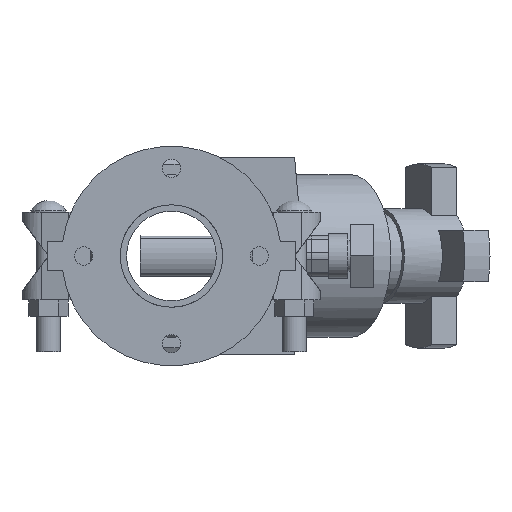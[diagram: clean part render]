
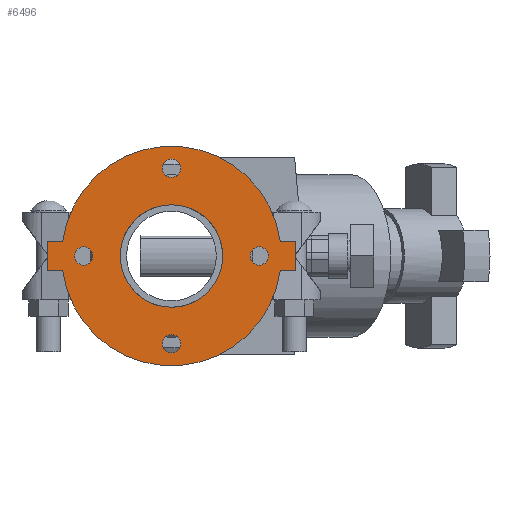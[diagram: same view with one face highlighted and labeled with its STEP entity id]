
A CAD part, front view. The second image highlights one B-rep face of the part: STEP entity #6496.
In plain terms, the highlighted planar face has unit normal (0, -1, 0) as drawn and (0, 0, 1) by its records, which use the part's own axes.
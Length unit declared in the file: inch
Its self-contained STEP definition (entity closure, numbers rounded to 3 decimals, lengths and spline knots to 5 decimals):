
#175=FACE_BOUND('',#821,.T.);
#176=FACE_BOUND('',#822,.T.);
#177=FACE_BOUND('',#823,.T.);
#178=FACE_BOUND('',#824,.T.);
#179=FACE_BOUND('',#825,.T.);
#245=PLANE('',#7065);
#461=FACE_OUTER_BOUND('',#820,.T.);
#820=EDGE_LOOP('',(#4206,#4207,#4208,#4209,#4210,#4211,#4212,#4213));
#821=EDGE_LOOP('',(#4214));
#822=EDGE_LOOP('',(#4215));
#823=EDGE_LOOP('',(#4216));
#824=EDGE_LOOP('',(#4217));
#825=EDGE_LOOP('',(#4218,#4219));
#1239=LINE('',#9908,#1730);
#1240=LINE('',#9911,#1731);
#1243=LINE('',#9916,#1734);
#1244=LINE('',#9919,#1735);
#1246=LINE('',#9922,#1737);
#1247=LINE('',#9924,#1738);
#1730=VECTOR('',#7875,0.3937);
#1731=VECTOR('',#7878,0.3937);
#1734=VECTOR('',#7883,0.3937);
#1735=VECTOR('',#7886,0.3937);
#1737=VECTOR('',#7890,0.3937);
#1738=VECTOR('',#7893,0.3937);
#2205=CIRCLE('',#7036,0.3125);
#2207=CIRCLE('',#7039,0.3125);
#2209=CIRCLE('',#7042,0.3125);
#2211=CIRCLE('',#7045,0.3125);
#2217=CIRCLE('',#7053,3.75);
#2218=CIRCLE('',#7055,1.75);
#2219=CIRCLE('',#7056,1.75);
#2220=CIRCLE('',#7058,3.75);
#2576=VERTEX_POINT('',#9843);
#2578=VERTEX_POINT('',#9849);
#2580=VERTEX_POINT('',#9855);
#2582=VERTEX_POINT('',#9861);
#2594=VERTEX_POINT('',#9888);
#2595=VERTEX_POINT('',#9890);
#2596=VERTEX_POINT('',#9894);
#2597=VERTEX_POINT('',#9896);
#2598=VERTEX_POINT('',#9900);
#2599=VERTEX_POINT('',#9902);
#2600=VERTEX_POINT('',#9906);
#2601=VERTEX_POINT('',#9910);
#2602=VERTEX_POINT('',#9914);
#2603=VERTEX_POINT('',#9918);
#3207=EDGE_CURVE('',#2576,#2576,#2205,.T.);
#3210=EDGE_CURVE('',#2578,#2578,#2207,.T.);
#3213=EDGE_CURVE('',#2580,#2580,#2209,.T.);
#3216=EDGE_CURVE('',#2582,#2582,#2211,.T.);
#3231=EDGE_CURVE('',#2594,#2595,#2217,.T.);
#3233=EDGE_CURVE('',#2597,#2596,#2218,.T.);
#3234=EDGE_CURVE('',#2596,#2597,#2219,.T.);
#3236=EDGE_CURVE('',#2599,#2598,#2220,.T.);
#3239=EDGE_CURVE('',#2595,#2600,#1239,.T.);
#3240=EDGE_CURVE('',#2601,#2599,#1240,.T.);
#3243=EDGE_CURVE('',#2598,#2602,#1243,.T.);
#3244=EDGE_CURVE('',#2603,#2594,#1244,.T.);
#3246=EDGE_CURVE('',#2602,#2603,#1246,.T.);
#3247=EDGE_CURVE('',#2600,#2601,#1247,.T.);
#4206=ORIENTED_EDGE('',*,*,#3243,.T.);
#4207=ORIENTED_EDGE('',*,*,#3246,.T.);
#4208=ORIENTED_EDGE('',*,*,#3244,.T.);
#4209=ORIENTED_EDGE('',*,*,#3231,.T.);
#4210=ORIENTED_EDGE('',*,*,#3239,.T.);
#4211=ORIENTED_EDGE('',*,*,#3247,.T.);
#4212=ORIENTED_EDGE('',*,*,#3240,.T.);
#4213=ORIENTED_EDGE('',*,*,#3236,.T.);
#4214=ORIENTED_EDGE('',*,*,#3207,.T.);
#4215=ORIENTED_EDGE('',*,*,#3210,.T.);
#4216=ORIENTED_EDGE('',*,*,#3213,.T.);
#4217=ORIENTED_EDGE('',*,*,#3216,.T.);
#4218=ORIENTED_EDGE('',*,*,#3233,.T.);
#4219=ORIENTED_EDGE('',*,*,#3234,.T.);
#6496=ADVANCED_FACE('',(#461,#175,#176,#177,#178,#179),#245,.T.);
#7036=AXIS2_PLACEMENT_3D('',#9844,#7811,#7812);
#7039=AXIS2_PLACEMENT_3D('',#9850,#7818,#7819);
#7042=AXIS2_PLACEMENT_3D('',#9856,#7825,#7826);
#7045=AXIS2_PLACEMENT_3D('',#9862,#7832,#7833);
#7053=AXIS2_PLACEMENT_3D('',#9892,#7857,#7858);
#7055=AXIS2_PLACEMENT_3D('',#9897,#7862,#7863);
#7056=AXIS2_PLACEMENT_3D('',#9898,#7864,#7865);
#7058=AXIS2_PLACEMENT_3D('',#9903,#7869,#7870);
#7065=AXIS2_PLACEMENT_3D('',#9925,#7894,#7895);
#7811=DIRECTION('center_axis',(0.,0.,-1.));
#7812=DIRECTION('ref_axis',(0.,1.,0.));
#7818=DIRECTION('center_axis',(0.,0.,-1.));
#7819=DIRECTION('ref_axis',(1.,0.,0.));
#7825=DIRECTION('center_axis',(0.,0.,-1.));
#7826=DIRECTION('ref_axis',(0.,-1.,0.));
#7832=DIRECTION('center_axis',(0.,0.,-1.));
#7833=DIRECTION('ref_axis',(-1.,0.,0.));
#7857=DIRECTION('center_axis',(0.,0.,1.));
#7858=DIRECTION('ref_axis',(-1.,0.,0.));
#7862=DIRECTION('center_axis',(0.,0.,-1.));
#7863=DIRECTION('ref_axis',(-1.,0.,0.));
#7864=DIRECTION('center_axis',(0.,0.,-1.));
#7865=DIRECTION('ref_axis',(-1.,0.,0.));
#7869=DIRECTION('center_axis',(0.,0.,1.));
#7870=DIRECTION('ref_axis',(-1.,0.,0.));
#7875=DIRECTION('',(0.,1.,0.));
#7878=DIRECTION('',(0.,-1.,0.));
#7883=DIRECTION('',(0.,-1.,0.));
#7886=DIRECTION('',(0.,1.,0.));
#7890=DIRECTION('',(1.,0.,0.));
#7893=DIRECTION('',(-1.,0.,0.));
#7894=DIRECTION('center_axis',(0.,0.,1.));
#7895=DIRECTION('ref_axis',(1.,0.,0.));
#9843=CARTESIAN_POINT('',(0.,2.6875,0.5));
#9844=CARTESIAN_POINT('Origin',(0.,3.,0.5));
#9849=CARTESIAN_POINT('',(2.6875,0.,0.5));
#9850=CARTESIAN_POINT('Origin',(3.,0.,0.5));
#9855=CARTESIAN_POINT('',(0.,-2.6875,0.5));
#9856=CARTESIAN_POINT('Origin',(0.,-3.,0.5));
#9861=CARTESIAN_POINT('',(-2.6875,0.,0.5));
#9862=CARTESIAN_POINT('Origin',(-3.,0.,0.5));
#9888=CARTESIAN_POINT('',(0.5,-3.71652,0.5));
#9890=CARTESIAN_POINT('',(0.5,3.71652,0.5));
#9892=CARTESIAN_POINT('Origin',(0.,0.,0.5));
#9894=CARTESIAN_POINT('',(1.75,0.,0.5));
#9896=CARTESIAN_POINT('',(0.5,1.67705,0.5));
#9897=CARTESIAN_POINT('Origin',(0.,0.,0.5));
#9898=CARTESIAN_POINT('Origin',(0.,0.,0.5));
#9900=CARTESIAN_POINT('',(-0.5,-3.71652,0.5));
#9902=CARTESIAN_POINT('',(-0.5,3.71652,0.5));
#9903=CARTESIAN_POINT('Origin',(0.,0.,0.5));
#9906=CARTESIAN_POINT('',(0.5,4.25,0.5));
#9908=CARTESIAN_POINT('',(0.5,4.25,0.5));
#9910=CARTESIAN_POINT('',(-0.5,4.25,0.5));
#9911=CARTESIAN_POINT('',(-0.5,-4.25,0.5));
#9914=CARTESIAN_POINT('',(-0.5,-4.25,0.5));
#9916=CARTESIAN_POINT('',(-0.5,-4.25,0.5));
#9918=CARTESIAN_POINT('',(0.5,-4.25,0.5));
#9919=CARTESIAN_POINT('',(0.5,4.25,0.5));
#9922=CARTESIAN_POINT('',(0.5,-4.25,0.5));
#9924=CARTESIAN_POINT('',(-0.5,4.25,0.5));
#9925=CARTESIAN_POINT('Origin',(0.,0.,0.5));
